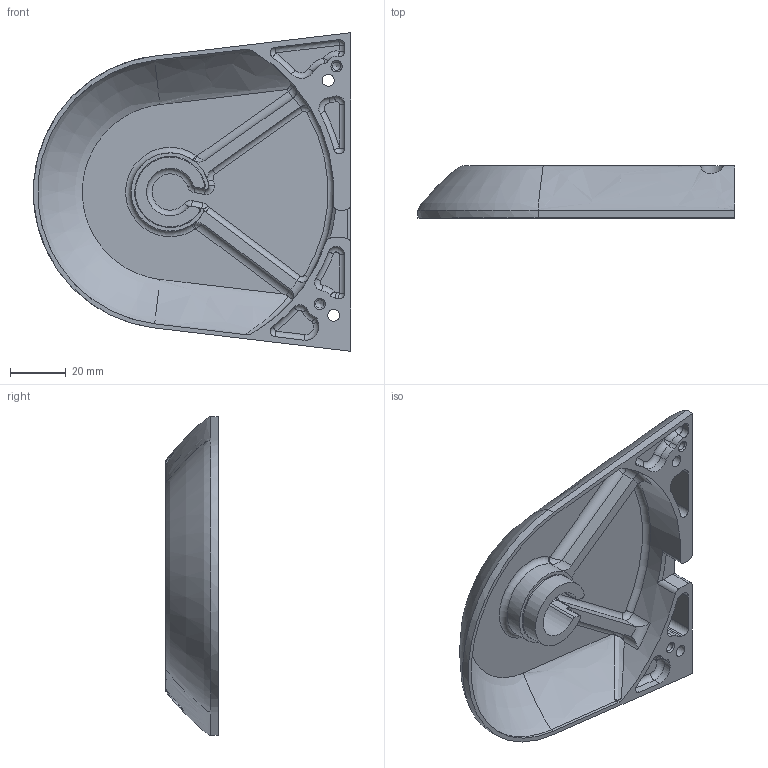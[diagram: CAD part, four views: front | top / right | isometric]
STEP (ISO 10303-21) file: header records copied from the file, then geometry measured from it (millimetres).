
FILE_DESCRIPTION(/* description */ ('STEP AP242 Edition 2','CAx-IF Rec.Pracs.---Representation and Presentation of Product Manufacturing Information (PMI)---4.0---2014-10-13','CAx-IF Rec.Pracs.---3D Tessellated Geometry---0.4---2014-09-14','2;1','CAx-IF Rec.Pracs.---User Defined Attributes---1.5---2016-08-15'),/* implementation_level */ '2;1');
FILE_NAME(/* name */ 'Assy_ForMFG - KD-C-102R_ShldYokeIdle',/* time_stamp */ '2026-05-15T19:56:28Z',/* author */ (''),/* organization */ (''),/* preprocessor_version */ 'ST-DEVELOPER v20',/* originating_system */ 'ONSHAPE BY PTC INC, 1.215',/* authorisation */ ' ');
FILE_SCHEMA (('AP242_MANAGED_MODEL_BASED_3D_ENGINEERING_MIM_LF { 1 0 10303 442 3 1 4 }'));
Length unit declared in the file: metre
Products named in the file (1): KD-C-102R_ShldYokeIdle
Bounding box: 113.46 x 18.75 x 114 mm (x, y, z)
Volume: 44154.2 mm3; surface area: 34720.4 mm2
Topology: 1 solids, 1 shells, 167 faces, 424 edges, 252 vertices
Faces by surface type: cylinder 69, torus 39, plane 34, bspline 11, sphere 9, cone 5
Full cylindrical faces by diameter (mm): 3 x2, 4.3 x2, 8.25 x2
Entity records: 5826 total; most frequent: CARTESIAN_POINT 1891, DIRECTION 878, ORIENTED_EDGE 790, EDGE_CURVE 395, AXIS2_PLACEMENT_3D 376, VERTEX_POINT 246, CIRCLE 217, FACE_BOUND 187
